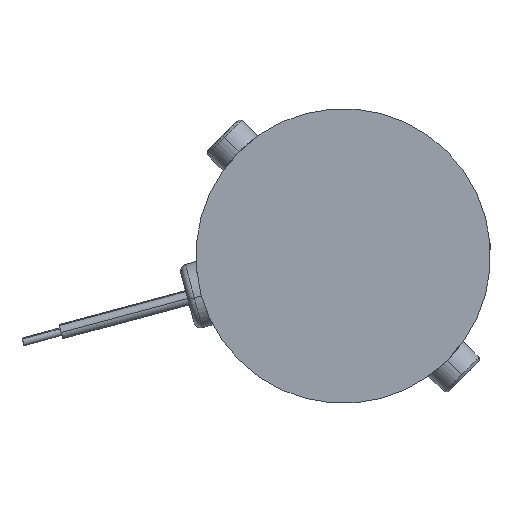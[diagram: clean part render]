
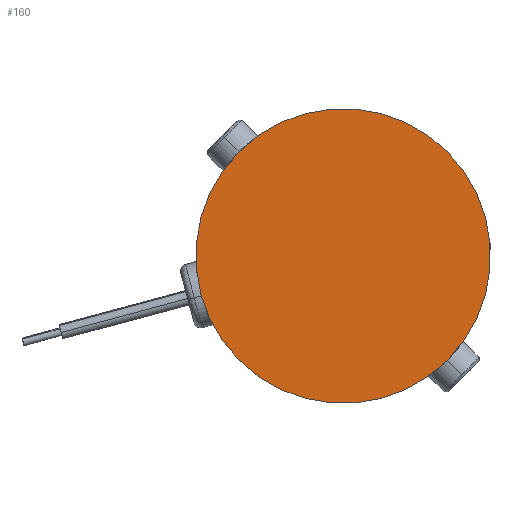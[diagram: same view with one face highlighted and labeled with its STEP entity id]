
A CAD part, left-side view. The second image highlights one B-rep face of the part: STEP entity #160.
In plain terms, the highlighted planar face has unit normal (-1, 0, 0).
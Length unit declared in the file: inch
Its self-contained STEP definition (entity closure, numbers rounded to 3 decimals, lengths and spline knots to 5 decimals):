
#160 = ADVANCED_FACE ( 'NONE', ( #3703 ), #5574, .F. ) ;
#1879 = DIRECTION ( 'NONE',  ( 1., 0., 0. ) ) ;
#1882 = DIRECTION ( 'NONE',  ( 1., 0., 0. ) ) ;
#2017 = ORIENTED_EDGE ( 'NONE', *, *, #7236, .F. ) ;
#2123 = VERTEX_POINT ( 'NONE', #7211 ) ;
#2372 = CARTESIAN_POINT ( 'NONE',  ( -4.65487, 3.72848, -3.73857 ) ) ;
#2782 = CARTESIAN_POINT ( 'NONE',  ( -4.65487, 4.52397, -2.94308 ) ) ;
#3210 = AXIS2_PLACEMENT_3D ( 'NONE', #6003, #1882, #4577 ) ;
#3314 = VERTEX_POINT ( 'NONE', #2782 ) ;
#3703 = FACE_OUTER_BOUND ( 'NONE', #6977, .T. ) ;
#3873 = DIRECTION ( 'NONE',  ( 1., 0., 0. ) ) ;
#4539 = DIRECTION ( 'NONE',  ( 0., -0.707, -0.707 ) ) ;
#4577 = DIRECTION ( 'NONE',  ( 0., -0.707, -0.707 ) ) ;
#4858 = DIRECTION ( 'NONE',  ( 0., -0.707, -0.707 ) ) ;
#5574 = PLANE ( 'NONE',  #7149 ) ;
#6003 = CARTESIAN_POINT ( 'NONE',  ( -4.65487, 3.72848, -3.73857 ) ) ;
#6062 = ORIENTED_EDGE ( 'NONE', *, *, #9360, .F. ) ;
#6086 = AXIS2_PLACEMENT_3D ( 'NONE', #2372, #3873, #4539 ) ;
#6977 = EDGE_LOOP ( 'NONE', ( #2017, #6062 ) ) ;
#6996 = CARTESIAN_POINT ( 'NONE',  ( -4.65487, 3.72848, -3.73857 ) ) ;
#7149 = AXIS2_PLACEMENT_3D ( 'NONE', #6996, #1879, #4858 ) ;
#7211 = CARTESIAN_POINT ( 'NONE',  ( -4.65487, 2.93298, -4.53407 ) ) ;
#7236 = EDGE_CURVE ( 'NONE', #3314, #2123, #8932, .T. ) ;
#8438 = CIRCLE ( 'NONE', #3210, 1.125 ) ;
#8932 = CIRCLE ( 'NONE', #6086, 1.125 ) ;
#9360 = EDGE_CURVE ( 'NONE', #2123, #3314, #8438, .T. ) ;
